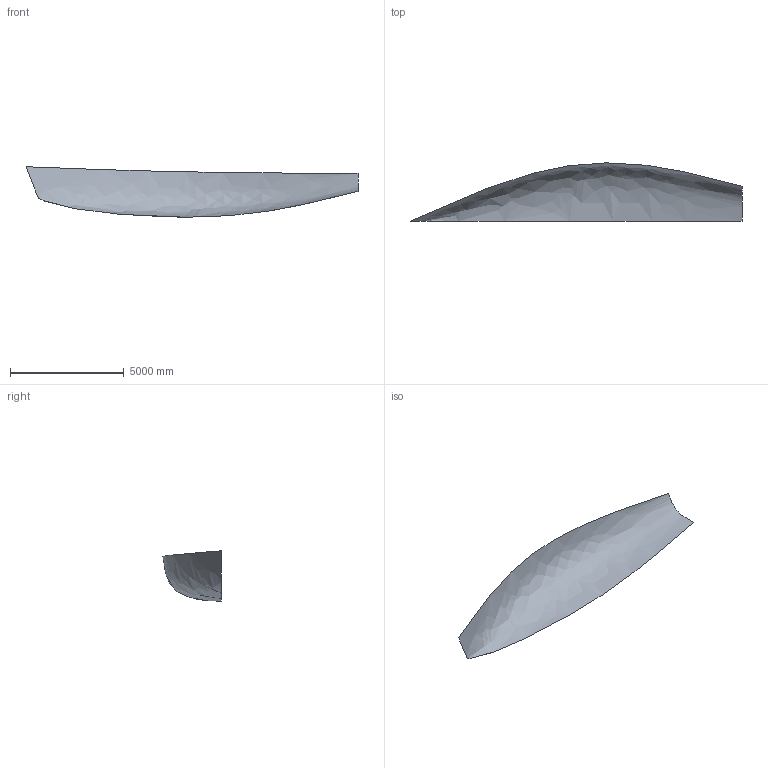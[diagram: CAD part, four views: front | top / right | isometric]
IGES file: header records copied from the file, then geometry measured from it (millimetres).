
Start section: DATA transfer to IGES file format           James R Teeters           17 Goodwin Street           Newport, RI 02840
Global section: file name: UssaM3.igs; author: Jim Teeters; organization: Newport RI; date: 951128.120000; units: metre
Bounding box: 14612.59 x 2564.64 x 2223.64 mm (x, y, z)
Surface area: 42958990.2 mm2 (no closed solid volume)
Topology: 0 solids, 0 shells, 1 faces, 4 edges, 4 vertices
Faces by surface type: bspline 1
